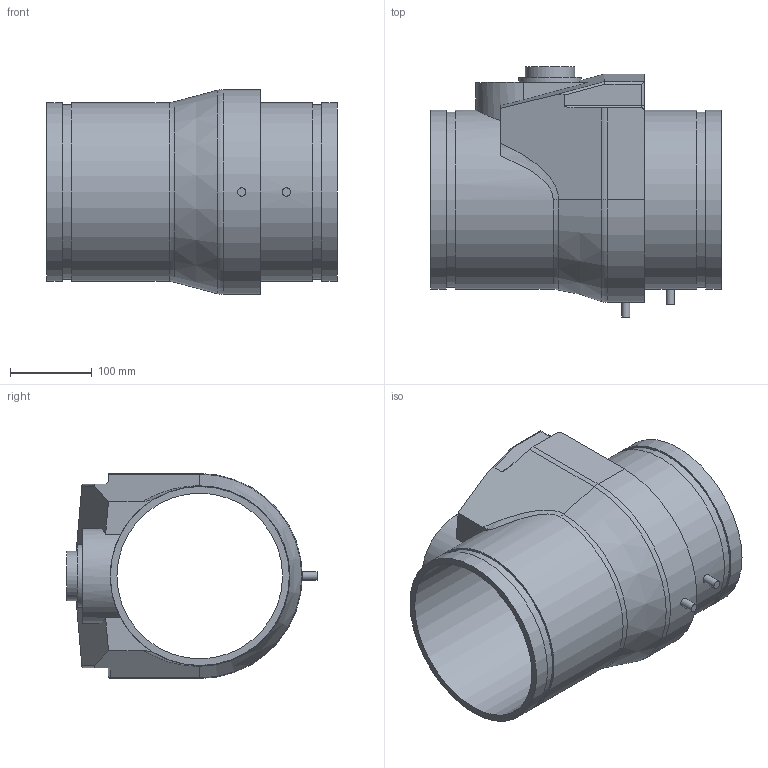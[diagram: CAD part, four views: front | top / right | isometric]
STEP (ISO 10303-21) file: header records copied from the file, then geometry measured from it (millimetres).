
FILE_DESCRIPTION(/* description */ ('VIC FIRELOCK CHECK VALVE SERIES 717','CAx-IF Rec.Pracs.---Representation and Presentation of Product Manufacturing Information (PMI)---4.0---2014-10-13'),/* implementation_level */ '2;1');
FILE_NAME(/* name */ 'C:\Users\Vjadhav\AppData\Roaming\Autodesk\ApplicationPlugins\Back Up\Victaulic_FP-FireLock_Valve Check_Series 717 (OGS)\Victaulic_FP-FireLock_Valve Check_8 (200).stp',/* time_stamp */ '2020-07-17T15:00:45+06:00',/* author */ ('kkamble'),/* organization */ ('Victaulic'),/* preprocessor_version */ 'ST-DEVELOPER v17.2',/* originating_system */ 'Autodesk Inventor 2019',/* authorisation */ '');
FILE_SCHEMA (('AP242_MANAGED_MODEL_BASED_3D_ENGINEERING_MIM_LF { 1 0 10303 442 1 1 4 }'));
Length unit declared in the file: inch
Products named in the file (2): 717-08.0; 717 -08.0
Assembly tree (1 placements, depth 2):
  717-08.0
    717 -08.0
Bounding box: 355.6 x 306.07 x 250.95 mm (x, y, z)
Volume: 4794580.5 mm3; surface area: 558755.1 mm2
Topology: 2 solids, 2 shells, 63 faces, 158 edges, 105 vertices
Faces by surface type: plane 30, cylinder 26, torus 4, bspline 2, cone 1
Full cylindrical faces by diameter (mm): 10.16 x2, 60.325 x1, 76.2 x1, 202.717 x1, 214.401 x2, 219.075 x4
Entity records: 2179 total; most frequent: CARTESIAN_POINT 449, DIRECTION 363, ORIENTED_EDGE 318, EDGE_CURVE 159, AXIS2_PLACEMENT_3D 145, VERTEX_POINT 107, LINE 73, VECTOR 73
